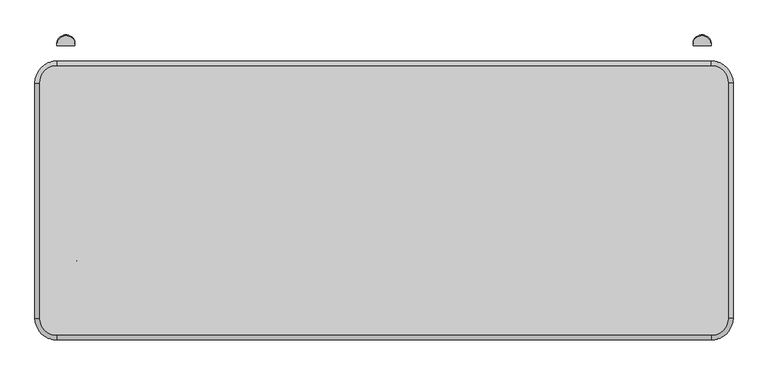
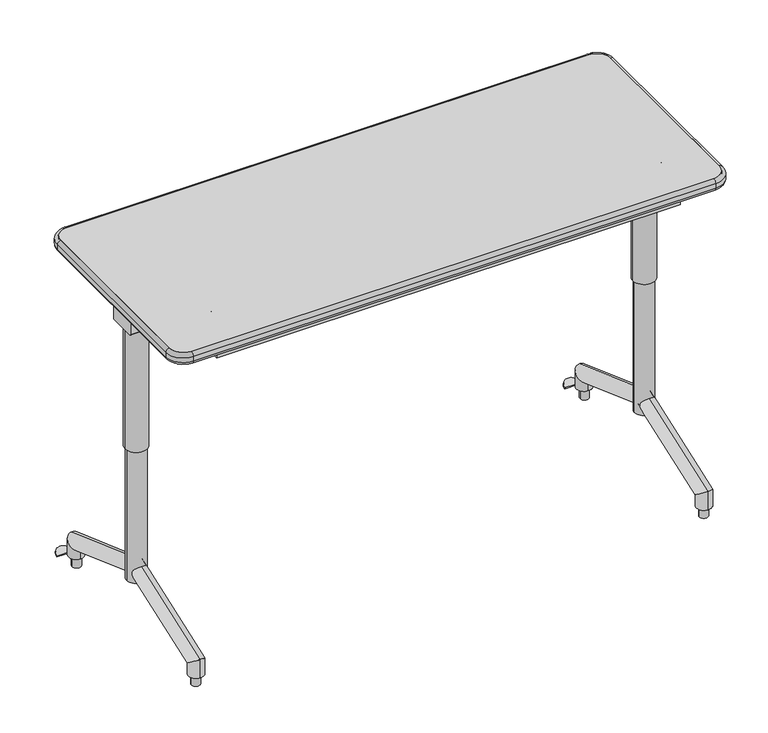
"""IFC4 building model written with IfcOpenShell, lengths in millimetres: furniture geometry, SmithSystem_AM_Table_Education_Elemental_NestAndFold_24D : 24D x 60W."""

from ifc_helpers import new_model, si_unit, point, frame, frame_2d, origin, place, context, project, spatial, polyline, circle_curve, ellipse_curve, trimmed, segment, composite_curve, outline, extrude, source, transform, mapped, element, save
from ifc_brep_helpers import plane_surface, cylinder_surface, revolved_surface, advanced_brep


def furniture_2a3ed800(model_context):
    return source(origin(), model_context, "Body", "SolidModel", [
        advanced_brep(
        [(1334.7134706, -427.2789552, 981.8257265), (1334.7134706, -434.5498344, 978.192725), (1327.0335156, -427.2789552, 981.8257265), (1327.0335156, -434.5498344, 978.192725), (1321.5159237, -439.4855805, 975.7265071), (1313.3879237, -439.4855805, 975.7265071), (1313.3879237, -504.7273959, 943.1274772), (1321.5159237, -504.7273959, 943.1274772), (1327.1310849, -509.7504224, 940.6176484), (1327.1310849, -517.0213016, 936.9846469), (1427.2139747, -517.0213016, 936.9846469), (1427.2139747, -509.7504224, 940.6176484), (1432.8070377, -504.7471638, 943.1175999), (1440.9350377, -504.7471638, 943.1175999), (1440.9350377, -439.5942232, 975.6722222), (1432.8070377, -439.5942232, 975.6722222), (1427.1679959, -434.5498344, 978.192725), (1427.1679959, -427.2789552, 981.8257265), (1419.6094908, -427.2789552, 981.8257265), (1419.6094908, -434.5498344, 978.192725)],
        [
            (0, 1, circle_curve(frame((1334.7134706, -430.9143948, 980.0092257), z_axis=(1.0, 0.0, 0.0), x_axis=(0.0, -0.8945471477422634, -0.44697360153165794)), 4.064)),
            (1, 0, circle_curve(frame((1334.7134706, -430.9143948, 980.0092257), z_axis=(1.0, 0.0, 0.0), x_axis=(0.0, -0.8945471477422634, -0.44697360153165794)), 4.064)),
            (0, 2),
            (2, 3, circle_curve(frame((1327.0335156, -430.9143948, 980.0092257), z_axis=(1.0, 0.0, 0.0), x_axis=(0.0, -0.8945471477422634, -0.44697360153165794)), 4.064)),
            (3, 1),
            (3, 2, circle_curve(frame((1327.0335156, -430.9143948, 980.0092257), z_axis=(1.0, 0.0, 0.0), x_axis=(0.0, -0.8945471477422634, -0.44697360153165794)), 4.064)),
            (4, 3, circle_curve(frame((1327.0335156, -439.4855805, 975.7265071), z_axis=(0.0, 0.4469736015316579, -0.8945471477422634), x_axis=(0.0, 0.8945471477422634, 0.4469736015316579)), 5.517592)),
            (2, 5, circle_curve(frame((1327.0335156, -439.4855805, 975.7265071), z_axis=(0.0, -0.4469736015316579, 0.8945471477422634), x_axis=(0.0, 0.8945471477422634, 0.4469736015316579)), 13.645592)),
            (5, 4, circle_curve(frame((1317.4519237, -439.4855805, 975.7265071), z_axis=(0.0, 0.8945471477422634, 0.44697360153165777), x_axis=(1.0, 0.0, 0.0)), 4.064)),
            (4, 5, circle_curve(frame((1317.4519237, -439.4855805, 975.7265071), z_axis=(0.0, 0.8945471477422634, 0.44697360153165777), x_axis=(1.0, 0.0, 0.0)), 4.064)),
            (5, 6),
            (6, 7, circle_curve(frame((1317.4519237, -504.7273959, 943.1274772), z_axis=(0.0, 0.8945471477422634, 0.44697360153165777), x_axis=(1.0, 0.0, 0.0)), 4.064)),
            (7, 4),
            (7, 6, circle_curve(frame((1317.4519237, -504.7273959, 943.1274772), z_axis=(0.0, 0.8945471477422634, 0.44697360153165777), x_axis=(1.0, 0.0, 0.0)), 4.064)),
            (8, 7, circle_curve(frame((1327.1310849, -504.7273959, 943.1274772), z_axis=(0.0, 0.4469736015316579, -0.8945471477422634), x_axis=(-1.0, 0.0, 0.0)), 5.6151612)),
            (6, 9, circle_curve(frame((1327.1310849, -504.7273959, 943.1274772), z_axis=(0.0, -0.4469736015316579, 0.8945471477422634), x_axis=(-1.0, 0.0, 0.0)), 13.7431612)),
            (9, 8, circle_curve(frame((1327.1310849, -513.385862, 938.8011476), z_axis=(-1.0, 0.0, 0.0), x_axis=(0.0, 0.8945471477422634, 0.44697360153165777)), 4.064)),
            (8, 9, circle_curve(frame((1327.1310849, -513.385862, 938.8011476), z_axis=(-1.0, 0.0, 0.0), x_axis=(0.0, 0.8945471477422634, 0.44697360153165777)), 4.064)),
            (9, 10),
            (10, 11, circle_curve(frame((1427.2139747, -513.385862, 938.8011476), z_axis=(-1.0, 0.0, 0.0), x_axis=(0.0, 0.8945471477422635, 0.44697360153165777)), 4.064)),
            (11, 8),
            (11, 10, circle_curve(frame((1427.2139747, -513.385862, 938.8011476), z_axis=(-1.0, 0.0, 0.0), x_axis=(0.0, 0.8945471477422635, 0.44697360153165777)), 4.064)),
            (12, 11, circle_curve(frame((1427.2139747, -504.7471638, 943.1175999), z_axis=(0.0, 0.4469736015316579, -0.8945471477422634), x_axis=(0.0, -0.8945471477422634, -0.4469736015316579)), 5.593063)),
            (10, 13, circle_curve(frame((1427.2139747, -504.7471638, 943.1175999), z_axis=(0.0, -0.4469736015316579, 0.8945471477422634), x_axis=(0.0, -0.8945471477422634, -0.4469736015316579)), 13.721063)),
            (13, 12, circle_curve(frame((1436.8710377, -504.7471638, 943.1175999), z_axis=(0.0, -0.8945471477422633, -0.44697360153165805), x_axis=(-1.0, 0.0, 0.0)), 4.064)),
            (12, 13, circle_curve(frame((1436.8710377, -504.7471638, 943.1175999), z_axis=(0.0, -0.8945471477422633, -0.44697360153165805), x_axis=(-1.0, 0.0, 0.0)), 4.064)),
            (13, 14),
            (14, 15, circle_curve(frame((1436.8710377, -439.5942232, 975.6722222), z_axis=(0.0, -0.894547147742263, -0.4469736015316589), x_axis=(-1.0, 0.0, 0.0)), 4.064)),
            (15, 12),
            (15, 14, circle_curve(frame((1436.8710377, -439.5942232, 975.6722222), z_axis=(0.0, -0.894547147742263, -0.4469736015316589), x_axis=(-1.0, 0.0, 0.0)), 4.064)),
            (16, 15, circle_curve(frame((1427.1679959, -439.5942232, 975.6722222), z_axis=(0.0, 0.4469736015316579, -0.8945471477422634), x_axis=(1.0, 0.0, 0.0)), 5.6390418)),
            (14, 17, circle_curve(frame((1427.1679959, -439.5942232, 975.6722222), z_axis=(0.0, -0.4469736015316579, 0.8945471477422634), x_axis=(1.0, 0.0, 0.0)), 13.7670418)),
            (17, 16, circle_curve(frame((1427.1679959, -430.9143948, 980.0092257), z_axis=(1.0, 0.0, 0.0), x_axis=(0.0, -0.8945471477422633, -0.446973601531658)), 4.064)),
            (16, 17, circle_curve(frame((1427.1679959, -430.9143948, 980.0092257), z_axis=(1.0, 0.0, 0.0), x_axis=(0.0, -0.8945471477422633, -0.446973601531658)), 4.064)),
            (18, 19, circle_curve(frame((1419.6094908, -430.9143948, 980.0092257), z_axis=(-1.0, 0.0, 0.0), x_axis=(0.0, -0.8945471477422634, -0.44697360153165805)), 4.064)),
            (19, 18, circle_curve(frame((1419.6094908, -430.9143948, 980.0092257), z_axis=(-1.0, 0.0, 0.0), x_axis=(0.0, -0.8945471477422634, -0.44697360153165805)), 4.064)),
            (17, 18),
            (19, 16),
        ],
        [
            plane_surface(frame((1334.7134706, -309.47432, 727.857014), z_axis=(1.0, 0.0, 0.0), x_axis=(0.0, -0.44697360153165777, 0.8945471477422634))),
            cylinder_surface(frame((1334.7134706, -430.9143948, 980.0092257), z_axis=(1.0, 0.0, 0.0), x_axis=(0.0, -0.8945471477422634, -0.44697360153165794)), 4.064),
            revolved_surface(trimmed(ellipse_curve(frame((1327.0335156, -430.9143948, 980.0092257), z_axis=(1.0, 0.0, 0.0), x_axis=(0.0, -0.8945471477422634, -0.44697360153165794)), 4.064, 4.064), [point((1327.0335156, -427.2789552, 981.8257265))], [point((1327.0335156, -434.5498344, 978.192725))], True, "CARTESIAN"), (1327.0335156, -314.4033484, 725.3941527), (0.0, -0.4469736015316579, 0.8945471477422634)),
            revolved_surface(trimmed(ellipse_curve(frame((1327.0335156, -430.9143948, 980.0092257), z_axis=(1.0, 0.0, 0.0), x_axis=(0.0, -0.8945471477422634, -0.44697360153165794)), 4.064, 4.064), [point((1327.0335156, -434.5498344, 978.192725))], [point((1327.0335156, -427.2789552, 981.8257265))], True, "CARTESIAN"), (1327.0335156, -314.4033484, 725.3941527), (0.0, -0.4469736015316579, 0.8945471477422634)),
            cylinder_surface(frame((1317.4519237, -439.4855805, 975.7265071), z_axis=(0.0, 0.8945471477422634, 0.44697360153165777), x_axis=(1.0, 0.0, 0.0)), 4.064),
            revolved_surface(trimmed(ellipse_curve(frame((1317.4519237, -504.7273959, 943.1274772), z_axis=(0.0, 0.8945471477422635, 0.4469736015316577), x_axis=(1.0, 0.0, 0.0)), 4.064, 4.064), [point((1313.3879237, -504.7273959, 943.1274772))], [point((1321.5159237, -504.7273959, 943.1274772))], True, "CARTESIAN"), (1327.1310849, -379.6451638, 692.7951229), (0.0, -0.4469736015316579, 0.8945471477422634)),
            revolved_surface(trimmed(ellipse_curve(frame((1317.4519237, -504.7273959, 943.1274772), z_axis=(0.0, 0.8945471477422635, 0.4469736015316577), x_axis=(1.0, 0.0, 0.0)), 4.064, 4.064), [point((1321.5159237, -504.7273959, 943.1274772))], [point((1313.3879237, -504.7273959, 943.1274772))], True, "CARTESIAN"), (1327.1310849, -379.6451638, 692.7951229), (0.0, -0.4469736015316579, 0.8945471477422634)),
            cylinder_surface(frame((1327.1310849, -513.385862, 938.8011476), z_axis=(-1.0, 0.0, 0.0), x_axis=(0.0, 0.8945471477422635, 0.44697360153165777)), 4.064),
            revolved_surface(trimmed(ellipse_curve(frame((1427.2139747, -513.385862, 938.8011476), z_axis=(-1.0, 0.0, 0.0), x_axis=(0.0, 0.8945471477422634, 0.4469736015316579)), 4.064, 4.064), [point((1427.2139747, -517.0213016, 936.9846469))], [point((1427.2139747, -509.7504224, 940.6176484))], True, "CARTESIAN"), (1427.2139747, -379.6649317, 692.7852455), (0.0, -0.4469736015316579, 0.8945471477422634)),
            revolved_surface(trimmed(ellipse_curve(frame((1427.2139747, -513.385862, 938.8011476), z_axis=(-1.0, 0.0, 0.0), x_axis=(0.0, 0.8945471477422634, 0.4469736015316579)), 4.064, 4.064), [point((1427.2139747, -509.7504224, 940.6176484))], [point((1427.2139747, -517.0213016, 936.9846469))], True, "CARTESIAN"), (1427.2139747, -379.6649317, 692.7852455), (0.0, -0.4469736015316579, 0.8945471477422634)),
            cylinder_surface(frame((1436.8710377, -504.7471638, 943.1175999), z_axis=(0.0, -0.894547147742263, -0.4469736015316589), x_axis=(-1.0, 0.0, 0.0)), 4.064),
            revolved_surface(trimmed(ellipse_curve(frame((1436.8710377, -439.5942232, 975.6722222), z_axis=(0.0, -0.8945471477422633, -0.4469736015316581), x_axis=(-1.0, 0.0, 0.0)), 4.064, 4.064), [point((1440.9350377, -439.5942232, 975.6722222))], [point((1432.8070377, -439.5942232, 975.6722222))], True, "CARTESIAN"), (1427.1679959, -314.511991, 725.3398679), (0.0, -0.4469736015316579, 0.8945471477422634)),
            revolved_surface(trimmed(ellipse_curve(frame((1436.8710377, -439.5942232, 975.6722222), z_axis=(0.0, -0.8945471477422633, -0.4469736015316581), x_axis=(-1.0, 0.0, 0.0)), 4.064, 4.064), [point((1432.8070377, -439.5942232, 975.6722222))], [point((1440.9350377, -439.5942232, 975.6722222))], True, "CARTESIAN"), (1427.1679959, -314.511991, 725.3398679), (0.0, -0.4469736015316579, 0.8945471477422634)),
            plane_surface(frame((1419.6094908, -309.47432, 727.857014), z_axis=(-1.0, 0.0, 0.0), x_axis=(0.0, -0.4469736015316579, 0.8945471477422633))),
            cylinder_surface(frame((1427.1679959, -430.9143948, 980.0092257), z_axis=(1.0, 0.0, 0.0), x_axis=(0.0, -0.8945471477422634, -0.44697360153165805)), 4.064),
        ],
        [
            (0, [[1, 2]]),
            (1, [[-1, 3, 4, 5]]),
            (1, [[-2, -5, 6, -3]]),
            (2, [[7, -4, 8, 9]]),
            (3, [[-8, -6, -7, 10]]),
            (4, [[-9, 11, 12, 13]]),
            (4, [[-10, -13, 14, -11]]),
            (5, [[15, -12, 16, 17]]),
            (6, [[-16, -14, -15, 18]]),
            (7, [[-17, 19, 20, 21]]),
            (7, [[-18, -21, 22, -19]]),
            (8, [[23, -20, 24, 25]]),
            (9, [[-24, -22, -23, 26]]),
            (10, [[-25, 27, 28, 29]]),
            (10, [[-26, -29, 30, -27]]),
            (11, [[31, -28, 32, 33]]),
            (12, [[-32, -30, -31, 34]]),
            (13, [[35, 36]]),
            (14, [[-33, 37, -36, 38]]),
            (14, [[-34, -38, -35, -37]]),
        ],
    ),
        advanced_brep(
        [(189.2865294, -434.5370466, 978.1897867), (189.2865294, -427.2661674, 981.8227881), (196.9664844, -434.5370466, 978.1897867), (196.9664844, -427.2661674, 981.8227881), (210.6222023, -439.4818509, 975.7190427), (202.4942023, -439.4818509, 975.7190427), (202.4942023, -504.7236662, 943.1200128), (210.6222023, -504.7236662, 943.1200128), (196.8689151, -517.02663, 936.9726565), (196.8689151, -509.7557508, 940.605658), (96.7860253, -509.7557508, 940.605658), (96.7860253, -517.02663, 936.9726565), (83.0548363, -504.7434342, 943.1101355), (91.1828363, -504.7434342, 943.1101355), (91.1828363, -439.5904935, 975.6647578), (83.0548363, -439.5904935, 975.6647578), (96.8320041, -427.2661674, 981.8227881), (96.8320041, -434.5370466, 978.1897867), (104.3905092, -434.5370466, 978.1897867), (104.3905092, -427.2661674, 981.8227881)],
        [
            (0, 1, circle_curve(frame((189.2865294, -430.901607, 980.0062874), z_axis=(-1.0, 0.0, 0.0), x_axis=(0.0, 0.8945471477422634, 0.4469736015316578)), 4.064)),
            (1, 0, circle_curve(frame((189.2865294, -430.901607, 980.0062874), z_axis=(-1.0, 0.0, 0.0), x_axis=(0.0, 0.8945471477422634, 0.4469736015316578)), 4.064)),
            (0, 2),
            (2, 3, circle_curve(frame((196.9664844, -430.901607, 980.0062874), z_axis=(-1.0, 0.0, 0.0), x_axis=(0.0, 0.8945471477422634, 0.4469736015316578)), 4.064)),
            (3, 1),
            (3, 2, circle_curve(frame((196.9664844, -430.901607, 980.0062874), z_axis=(-1.0, 0.0, 0.0), x_axis=(0.0, 0.8945471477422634, 0.4469736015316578)), 4.064)),
            (4, 3, circle_curve(frame((196.9664844, -439.4818509, 975.7190427), z_axis=(0.0, -0.4469736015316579, 0.8945471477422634), x_axis=(0.0, 0.8945471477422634, 0.4469736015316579)), 13.6557179)),
            (2, 5, circle_curve(frame((196.9664844, -439.4818509, 975.7190427), z_axis=(0.0, 0.4469736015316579, -0.8945471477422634), x_axis=(0.0, 0.8945471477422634, 0.4469736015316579)), 5.5277179)),
            (5, 4, circle_curve(frame((206.5582023, -439.4818509, 975.7190427), z_axis=(0.0, 0.8945471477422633, 0.446973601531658), x_axis=(1.0, 0.0, 0.0)), 4.064)),
            (4, 5, circle_curve(frame((206.5582023, -439.4818509, 975.7190427), z_axis=(0.0, 0.8945471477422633, 0.446973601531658), x_axis=(1.0, 0.0, 0.0)), 4.064)),
            (5, 6),
            (6, 7, circle_curve(frame((206.5582023, -504.7236662, 943.1200128), z_axis=(0.0, 0.8945471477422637, 0.4469736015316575), x_axis=(1.0, 0.0, 0.0)), 4.064)),
            (7, 4),
            (7, 6, circle_curve(frame((206.5582023, -504.7236662, 943.1200128), z_axis=(0.0, 0.8945471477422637, 0.4469736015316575), x_axis=(1.0, 0.0, 0.0)), 4.064)),
            (8, 7, circle_curve(frame((196.8689151, -504.7236662, 943.1200128), z_axis=(0.0, -0.4469736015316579, 0.8945471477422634), x_axis=(1.0, 0.0, 0.0)), 13.7532872)),
            (6, 9, circle_curve(frame((196.8689151, -504.7236662, 943.1200128), z_axis=(0.0, 0.4469736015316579, -0.8945471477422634), x_axis=(1.0, 0.0, 0.0)), 5.6252872)),
            (9, 8, circle_curve(frame((196.8689151, -513.3911904, 938.7891573), z_axis=(1.0, 0.0, 0.0), x_axis=(0.0, -0.8945471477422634, -0.44697360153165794)), 4.064)),
            (8, 9, circle_curve(frame((196.8689151, -513.3911904, 938.7891573), z_axis=(1.0, 0.0, 0.0), x_axis=(0.0, -0.8945471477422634, -0.44697360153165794)), 4.064)),
            (9, 10),
            (10, 11, circle_curve(frame((96.7860253, -513.3911904, 938.7891573), z_axis=(1.0, 0.0, 0.0), x_axis=(0.0, -0.8945471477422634, -0.446973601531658)), 4.064)),
            (11, 8),
            (11, 10, circle_curve(frame((96.7860253, -513.3911904, 938.7891573), z_axis=(1.0, 0.0, 0.0), x_axis=(0.0, -0.8945471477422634, -0.446973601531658)), 4.064)),
            (12, 11, circle_curve(frame((96.7860253, -504.7434342, 943.1101355), z_axis=(0.0, -0.4469736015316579, 0.8945471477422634), x_axis=(0.0, -0.8945471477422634, -0.4469736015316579)), 13.7311889)),
            (10, 13, circle_curve(frame((96.7860253, -504.7434342, 943.1101355), z_axis=(0.0, 0.4469736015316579, -0.8945471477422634), x_axis=(0.0, -0.8945471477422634, -0.4469736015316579)), 5.6031889)),
            (13, 12, circle_curve(frame((87.1188363, -504.7434342, 943.1101355), z_axis=(0.0, -0.8945471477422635, -0.44697360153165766), x_axis=(-1.0, 0.0, 0.0)), 4.064)),
            (12, 13, circle_curve(frame((87.1188363, -504.7434342, 943.1101355), z_axis=(0.0, -0.8945471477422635, -0.44697360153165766), x_axis=(-1.0, 0.0, 0.0)), 4.064)),
            (13, 14),
            (14, 15, circle_curve(frame((87.1188363, -439.5904935, 975.6647578), z_axis=(0.0, -0.8945471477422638, -0.446973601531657), x_axis=(-1.0, 0.0, 0.0)), 4.064)),
            (15, 12),
            (15, 14, circle_curve(frame((87.1188363, -439.5904935, 975.6647578), z_axis=(0.0, -0.8945471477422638, -0.446973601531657), x_axis=(-1.0, 0.0, 0.0)), 4.064)),
            (16, 15, circle_curve(frame((96.8320041, -439.5904935, 975.6647578), z_axis=(0.0, -0.4469736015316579, 0.8945471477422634), x_axis=(-1.0, 0.0, 0.0)), 13.7771678)),
            (14, 17, circle_curve(frame((96.8320041, -439.5904935, 975.6647578), z_axis=(0.0, 0.4469736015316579, -0.8945471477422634), x_axis=(-1.0, 0.0, 0.0)), 5.6491678)),
            (17, 16, circle_curve(frame((96.8320041, -430.901607, 980.0062874), z_axis=(-1.0, 0.0, 0.0), x_axis=(0.0, 0.8945471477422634, 0.44697360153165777)), 4.064)),
            (16, 17, circle_curve(frame((96.8320041, -430.901607, 980.0062874), z_axis=(-1.0, 0.0, 0.0), x_axis=(0.0, 0.8945471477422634, 0.44697360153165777)), 4.064)),
            (18, 19, circle_curve(frame((104.3905092, -430.901607, 980.0062874), z_axis=(1.0, 0.0, 0.0), x_axis=(0.0, 0.8945471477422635, 0.44697360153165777)), 4.064)),
            (19, 18, circle_curve(frame((104.3905092, -430.901607, 980.0062874), z_axis=(1.0, 0.0, 0.0), x_axis=(0.0, 0.8945471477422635, 0.44697360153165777)), 4.064)),
            (17, 18),
            (19, 16),
        ],
        [
            plane_surface(frame((189.2865294, -309.47432, 727.857014), z_axis=(-1.0, 0.0, 0.0), x_axis=(0.0, -0.4469736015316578, 0.8945471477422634))),
            cylinder_surface(frame((189.2865294, -430.901607, 980.0062874), z_axis=(-0.9999999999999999, 0.0, 0.0), x_axis=(0.0, 0.8945471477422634, 0.4469736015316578)), 4.064),
            revolved_surface(trimmed(ellipse_curve(frame((196.9664844, -430.901607, 980.0062874), z_axis=(-1.0, 0.0, 0.0), x_axis=(0.0, 0.8945471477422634, 0.4469736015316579)), 4.064, 4.064), [point((196.9664844, -434.5370466, 978.1897867))], [point((196.9664844, -427.2661674, 981.8227881))], True, "CARTESIAN"), (196.9664844, -314.4033484, 725.3941527), (0.0, 0.4469736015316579, -0.8945471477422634)),
            revolved_surface(trimmed(ellipse_curve(frame((196.9664844, -430.901607, 980.0062874), z_axis=(-1.0, 0.0, 0.0), x_axis=(0.0, 0.8945471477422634, 0.4469736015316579)), 4.064, 4.064), [point((196.9664844, -427.2661674, 981.8227881))], [point((196.9664844, -434.5370466, 978.1897867))], True, "CARTESIAN"), (196.9664844, -314.4033484, 725.3941527), (0.0, 0.4469736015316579, -0.8945471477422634)),
            cylinder_surface(frame((206.5582023, -439.4818509, 975.7190427), z_axis=(0.0, 0.8945471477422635, 0.4469736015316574), x_axis=(1.0, 0.0, 0.0)), 4.064),
            revolved_surface(trimmed(ellipse_curve(frame((206.5582023, -504.7236662, 943.1200128), z_axis=(0.0, 0.8945471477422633, 0.4469736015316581), x_axis=(1.0, 0.0, 0.0)), 4.064, 4.064), [point((202.4942023, -504.7236662, 943.1200128))], [point((210.6222023, -504.7236662, 943.1200128))], True, "CARTESIAN"), (196.8689151, -379.6451638, 692.7951229), (0.0, 0.4469736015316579, -0.8945471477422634)),
            revolved_surface(trimmed(ellipse_curve(frame((206.5582023, -504.7236662, 943.1200128), z_axis=(0.0, 0.8945471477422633, 0.4469736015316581), x_axis=(1.0, 0.0, 0.0)), 4.064, 4.064), [point((210.6222023, -504.7236662, 943.1200128))], [point((202.4942023, -504.7236662, 943.1200128))], True, "CARTESIAN"), (196.8689151, -379.6451638, 692.7951229), (0.0, 0.4469736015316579, -0.8945471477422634)),
            cylinder_surface(frame((196.8689151, -513.3911904, 938.7891573), z_axis=(1.0, 0.0, 0.0), x_axis=(0.0, -0.8945471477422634, -0.446973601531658)), 4.064),
            revolved_surface(trimmed(ellipse_curve(frame((96.7860253, -513.3911904, 938.7891573), z_axis=(1.0, 0.0, 0.0), x_axis=(0.0, -0.8945471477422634, -0.446973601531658)), 4.064, 4.064), [point((96.7860253, -509.7557508, 940.605658))], [point((96.7860253, -517.02663, 936.9726565))], True, "CARTESIAN"), (96.7860253, -379.6649317, 692.7852455), (0.0, 0.4469736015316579, -0.8945471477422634)),
            revolved_surface(trimmed(ellipse_curve(frame((96.7860253, -513.3911904, 938.7891573), z_axis=(1.0, 0.0, 0.0), x_axis=(0.0, -0.8945471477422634, -0.446973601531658)), 4.064, 4.064), [point((96.7860253, -517.02663, 936.9726565))], [point((96.7860253, -509.7557508, 940.605658))], True, "CARTESIAN"), (96.7860253, -379.6649317, 692.7852455), (0.0, 0.4469736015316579, -0.8945471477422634)),
            cylinder_surface(frame((87.1188363, -504.7434342, 943.1101355), z_axis=(0.0, -0.8945471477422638, -0.446973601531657), x_axis=(-1.0, 0.0, 0.0)), 4.064),
            revolved_surface(trimmed(ellipse_curve(frame((87.1188363, -439.5904935, 975.6647578), z_axis=(0.0, -0.8945471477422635, -0.4469736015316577), x_axis=(-1.0, 0.0, 0.0)), 4.064, 4.064), [point((91.1828363, -439.5904935, 975.6647578))], [point((83.0548363, -439.5904935, 975.6647578))], True, "CARTESIAN"), (96.8320041, -314.511991, 725.3398679), (0.0, 0.4469736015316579, -0.8945471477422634)),
            revolved_surface(trimmed(ellipse_curve(frame((87.1188363, -439.5904935, 975.6647578), z_axis=(0.0, -0.8945471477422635, -0.4469736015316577), x_axis=(-1.0, 0.0, 0.0)), 4.064, 4.064), [point((83.0548363, -439.5904935, 975.6647578))], [point((91.1828363, -439.5904935, 975.6647578))], True, "CARTESIAN"), (96.8320041, -314.511991, 725.3398679), (0.0, 0.4469736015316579, -0.8945471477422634)),
            plane_surface(frame((104.3905092, -309.47432, 727.857014), z_axis=(1.0, 0.0, 0.0), x_axis=(0.0, -0.4469736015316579, 0.8945471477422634))),
            cylinder_surface(frame((96.8320041, -430.901607, 980.0062874), z_axis=(-1.0000000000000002, 0.0, 0.0), x_axis=(0.0, 0.8945471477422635, 0.44697360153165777)), 4.064),
        ],
        [
            (0, [[1, 2]]),
            (1, [[-1, 3, 4, 5]]),
            (1, [[-2, -5, 6, -3]]),
            (2, [[7, -4, 8, 9]]),
            (3, [[-8, -6, -7, 10]]),
            (4, [[-9, 11, 12, 13]]),
            (4, [[-10, -13, 14, -11]]),
            (5, [[15, -12, 16, 17]]),
            (6, [[-16, -14, -15, 18]]),
            (7, [[-17, 19, 20, 21]]),
            (7, [[-18, -21, 22, -19]]),
            (8, [[23, -20, 24, 25]]),
            (9, [[-24, -22, -23, 26]]),
            (10, [[-25, 27, 28, 29]]),
            (10, [[-26, -29, 30, -27]]),
            (11, [[31, -28, 32, 33]]),
            (12, [[-32, -30, -31, 34]]),
            (13, [[35, 36]]),
            (14, [[-33, 37, -36, 38]]),
            (14, [[-34, -38, -35, -37]]),
        ],
    ),
        extrude(outline(polyline([(161.8904019, -551.0151675), (133.8581916, -551.0151675), (133.8581916, -327.1633652), (161.8904019, -327.1633652), (161.8904019, -551.0151675)])), frame((0.0, 0.0, 974.280274), z_axis=(0.0, 0.0, 1.0), x_axis=(1.0, 0.0, 0.0)), (0.0, 0.0, 1.0), 3.0744342),
        extrude(outline(polyline([(1390.1418084, -551.0151675), (1362.1095981, -551.0151675), (1362.1095981, -327.1633652), (1390.1418084, -327.1633652), (1390.1418084, -551.0151675)])), frame((0.0, 0.0, 974.280274), z_axis=(0.0, 0.0, 1.0), x_axis=(1.0, 0.0, 0.0)), (0.0, 0.0, 1.0), 3.0744342),
        extrude(outline(polyline([(1395.6745397, -551.0143137), (1395.6745397, -581.0147172), (128.3254603, -581.0147172), (128.3254603, -551.0143137), (1395.6745397, -551.0143137)])), frame((0.0, 0.0, 956.9875008), z_axis=(0.0, 0.0, 1.0), x_axis=(1.0, 0.0, 0.0)), (0.0, 0.0, 1.0), 20.3672075),
        extrude(outline(polyline([(-282.4370254, 984.2285912), (-260.3053067, 984.2285912), (-260.3053067, 981.8836076), (-279.3992263, 981.8836076), (-279.3992263, 953.4317459), (-330.2007737, 953.4317459), (-330.2007737, 981.8836076), (-349.2946933, 981.8836076), (-349.2946933, 984.2285912), (-327.1629746, 984.2285912), (-327.1629746, 955.4207676), (-282.4370254, 955.4207676), (-282.4370254, 984.2285912)])), frame((211.3171616, 0.0, 0.0), z_axis=(1.0, 0.0, 0.0), x_axis=(0.0, 1.0, 0.0)), (0.0, 0.0, 1.0), 1101.3656767),
        extrude(outline(polyline([(953.4317459, 102.364461), (953.4317459, 191.3646412), (984.2285912, 191.3646412), (984.2285912, 188.3699958), (956.6757476, 188.3699958), (956.6757476, 105.3591064), (984.2285912, 105.3591064), (984.2285912, 102.364461), (953.4317459, 102.364461)])), frame((0.0, -479.7995835, 0.0), z_axis=(0.0, 1.0, 0.0), x_axis=(0.0, 0.0, 1.0)), (0.0, 0.0, 1.0), 349.999167),
        extrude(outline(polyline([(953.4317459, 1421.635539), (984.2285912, 1421.635539), (984.2285912, 1418.6408936), (956.6757476, 1418.6408936), (956.6757476, 1335.6300042), (984.2285912, 1335.6300042), (984.2285912, 1332.6353588), (953.4317459, 1332.6353588), (953.4317459, 1421.635539)])), frame((0.0, -479.7995835, 0.0), z_axis=(0.0, 1.0, 0.0), x_axis=(0.0, 0.0, 1.0)), (0.0, 0.0, 1.0), 349.999167),
        extrude(outline(composite_curve([segment(polyline([(-341.7081299, 953.4317459), (-267.7421288, 953.4317459)]), True, "CONTINUOUS"), segment(trimmed(circle_curve(frame_2d((-267.7421288, 950.268135)), 3.1636109), [point((-267.7421288, 953.4317459))], [point((-264.5785179, 950.268135))], False, "CARTESIAN"), True, "CONTINUOUS"), segment(polyline([(-264.5785179, 950.268135), (-264.5785179, 916.5890828)]), True, "CONTINUOUS"), segment(trimmed(circle_curve(frame_2d((-267.720262, 916.5890828)), 3.1417441), [point((-264.5785179, 916.5890828))], [point((-267.720262, 913.4473388))], False, "CARTESIAN"), True, "CONTINUOUS"), segment(polyline([(-267.720262, 913.4473388), (-341.8879819, 913.4473388)]), True, "CONTINUOUS"), segment(trimmed(circle_curve(frame_2d((-341.8879819, 916.3885905)), 2.9412518), [point((-341.8879819, 913.4473388))], [point((-344.8292336, 916.3885905))], False, "CARTESIAN"), True, "CONTINUOUS"), segment(polyline([(-344.8292336, 916.3885905), (-344.8292336, 950.3106422)]), True, "CONTINUOUS"), segment(trimmed(circle_curve(frame_2d((-341.7081299, 950.3106422)), 3.1211038), [point((-344.8292336, 950.3106422))], [point((-341.7081299, 953.4317459))], False, "CARTESIAN"), True, "CONTINUOUS")], self_intersect=False)), frame((29.2900918, 0.0, 0.0), z_axis=(1.0, 0.0, 0.0), x_axis=(0.0, 1.0, 0.0)), (0.0, 0.0, 1.0), 1465.4198163),
        advanced_brep(
        [(0.0, -47.752, 1006.475029), (47.752, 0.0, 1006.475029), (47.752, 0.0, 993.7749708), (0.0, -47.752, 993.7749708), (9.652, -47.752, 1016.0), (47.752, -9.652, 1016.0), (9.652, -47.752, 984.2285912), (47.752, -9.652, 984.2285912), (0.0, -561.848, 993.7749708), (0.0, -561.848, 1006.475029), (9.652, -561.848, 1016.0), (9.652, -561.848, 984.2285912), (47.752, -609.6, 1006.475029), (47.752, -609.6, 993.7749708), (47.752, -599.948, 1016.0), (47.752, -599.948, 984.2285912), (1476.248, -609.6, 993.7749708), (1476.248, -609.6, 1006.475029), (1476.248, -599.948, 1016.0), (1476.248, -599.948, 984.2285912), (1524.0, -561.848, 1006.475029), (1524.0, -561.848, 993.7749708), (1514.348, -561.848, 1016.0), (1514.348, -561.848, 984.2285912), (1524.0, -47.752, 993.7749708), (1524.0, -47.752, 1006.475029), (1514.348, -47.752, 1016.0), (1514.348, -47.752, 984.2285912), (1476.248, 0.0, 1006.475029), (1476.248, 0.0, 993.7749708), (1476.248, -9.652, 1016.0), (1476.248, -9.652, 984.2285912)],
        [
            (0, 1, circle_curve(frame((47.752, -47.752, 1006.475029), z_axis=(0.0, 0.0, -1.0), x_axis=(0.0, 1.0, 0.0)), 47.752)),
            (1, 2),
            (2, 3, circle_curve(frame((47.752, -47.752, 993.7749708), z_axis=(0.0, 0.0, 1.0), x_axis=(0.0, 1.0, 0.0)), 47.752)),
            (3, 0),
            (4, 5, circle_curve(frame((47.752, -47.752, 1016.0), z_axis=(0.0, 0.0, -1.0), x_axis=(0.0, 1.0, 0.0)), 38.1)),
            (5, 1, circle_curve(frame((47.752, -9.5258069, 1006.475029), z_axis=(-1.0, 0.0, 0.0), x_axis=(0.0, -1.0, 0.0)), 9.5258069)),
            (0, 4, circle_curve(frame((9.5258069, -47.752, 1006.475029), z_axis=(0.0, 1.0, 0.0), x_axis=(1.0, 0.0, 0.0)), 9.5258069)),
            (6, 7, circle_curve(frame((47.752, -47.752, 984.2285912), z_axis=(0.0, 0.0, -1.0), x_axis=(0.0, 1.0, 0.0)), 38.1)),
            (7, 5),
            (4, 6),
            (2, 7, circle_curve(frame((47.752, -9.5469575, 993.7749708), z_axis=(-1.0, 0.0, 0.0), x_axis=(0.0, -1.0, 0.0)), 9.5469575)),
            (6, 3, circle_curve(frame((9.5469575, -47.752, 993.7749708), z_axis=(0.0, 1.0, 0.0), x_axis=(1.0, 0.0, 0.0)), 9.5469575)),
            (3, 8),
            (8, 9),
            (9, 0),
            (9, 10, circle_curve(frame((9.5258069, -561.848, 1006.475029), z_axis=(0.0, 1.0, 0.0), x_axis=(1.0, 0.0, 0.0)), 9.5258069)),
            (10, 4),
            (10, 11),
            (11, 6),
            (11, 8, circle_curve(frame((9.5469575, -561.848, 993.7749708), z_axis=(0.0, 1.0, 0.0), x_axis=(1.0, 0.0, 0.0)), 9.5469575)),
            (12, 9, circle_curve(frame((47.752, -561.848, 1006.475029), z_axis=(0.0, 0.0, -1.0), x_axis=(-1.0, 0.0, 0.0)), 47.752)),
            (8, 13, circle_curve(frame((47.752, -561.848, 993.7749708), z_axis=(0.0, 0.0, 1.0), x_axis=(-1.0, 0.0, 0.0)), 47.752)),
            (13, 12),
            (14, 10, circle_curve(frame((47.752, -561.848, 1016.0), z_axis=(0.0, 0.0, -1.0), x_axis=(-1.0, 0.0, 0.0)), 38.1)),
            (12, 14, circle_curve(frame((47.752, -600.0741931, 1006.475029), z_axis=(-1.0, 0.0, 0.0), x_axis=(0.0, 1.0, 0.0)), 9.5258069)),
            (15, 11, circle_curve(frame((47.752, -561.848, 984.2285912), z_axis=(0.0, 0.0, -1.0), x_axis=(-1.0, 0.0, 0.0)), 38.1)),
            (14, 15),
            (15, 13, circle_curve(frame((47.752, -600.0530425, 993.7749708), z_axis=(-1.0, 0.0, 0.0), x_axis=(0.0, 1.0, 0.0)), 9.5469575)),
            (13, 16),
            (16, 17),
            (17, 12),
            (17, 18, circle_curve(frame((1476.248, -600.0741931, 1006.475029), z_axis=(-1.0, 0.0, 0.0), x_axis=(0.0, 1.0, 0.0)), 9.5258069)),
            (18, 14),
            (18, 19),
            (19, 15),
            (19, 16, circle_curve(frame((1476.248, -600.0530425, 993.7749708), z_axis=(-1.0, 0.0, 0.0), x_axis=(0.0, 1.0, 0.0)), 9.5469575)),
            (20, 17, circle_curve(frame((1476.248, -561.848, 1006.475029), z_axis=(0.0, 0.0, -1.0), x_axis=(0.0, -1.0, 0.0)), 47.752)),
            (16, 21, circle_curve(frame((1476.248, -561.848, 993.7749708), z_axis=(0.0, 0.0, 1.0), x_axis=(0.0, -1.0, 0.0)), 47.752)),
            (21, 20),
            (22, 18, circle_curve(frame((1476.248, -561.848, 1016.0), z_axis=(0.0, 0.0, -1.0), x_axis=(0.0, -1.0, 0.0)), 38.1)),
            (20, 22, circle_curve(frame((1514.4741931, -561.848, 1006.475029), z_axis=(0.0, -1.0, 0.0), x_axis=(-1.0, 0.0, 0.0)), 9.5258069)),
            (23, 19, circle_curve(frame((1476.248, -561.848, 984.2285912), z_axis=(0.0, 0.0, -1.0), x_axis=(0.0, -1.0, 0.0)), 38.1)),
            (22, 23),
            (23, 21, circle_curve(frame((1514.4530425, -561.848, 993.7749708), z_axis=(0.0, -1.0, 0.0), x_axis=(-1.0, 0.0, 0.0)), 9.5469575)),
            (21, 24),
            (24, 25),
            (25, 20),
            (25, 26, circle_curve(frame((1514.4741931, -47.752, 1006.475029), z_axis=(0.0, -1.0, 0.0), x_axis=(-1.0, 0.0, 0.0)), 9.5258069)),
            (26, 22),
            (26, 27),
            (27, 23),
            (27, 24, circle_curve(frame((1514.4530425, -47.752, 993.7749708), z_axis=(0.0, -1.0, 0.0), x_axis=(-1.0, 0.0, 0.0)), 9.5469575)),
            (28, 25, circle_curve(frame((1476.248, -47.752, 1006.475029), z_axis=(0.0, 0.0, -1.0), x_axis=(1.0, 0.0, 0.0)), 47.752)),
            (24, 29, circle_curve(frame((1476.248, -47.752, 993.7749708), z_axis=(0.0, 0.0, 1.0), x_axis=(1.0, 0.0, 0.0)), 47.752)),
            (29, 28),
            (30, 26, circle_curve(frame((1476.248, -47.752, 1016.0), z_axis=(0.0, 0.0, -1.0), x_axis=(1.0, 0.0, 0.0)), 38.1)),
            (28, 30, circle_curve(frame((1476.248, -9.5258069, 1006.475029), z_axis=(1.0, 0.0, 0.0), x_axis=(0.0, -1.0, 0.0)), 9.5258069)),
            (31, 27, circle_curve(frame((1476.248, -47.752, 984.2285912), z_axis=(0.0, 0.0, -1.0), x_axis=(1.0, 0.0, 0.0)), 38.1)),
            (30, 31),
            (31, 29, circle_curve(frame((1476.248, -9.5469575, 993.7749708), z_axis=(1.0, 0.0, 0.0), x_axis=(0.0, -1.0, 0.0)), 9.5469575)),
            (29, 2),
            (1, 28),
            (5, 30),
            (7, 31),
        ],
        [
            cylinder_surface(frame((47.752, -47.752, 0.0), z_axis=(0.0, 0.0, 1.0), x_axis=(0.0, 1.0, 0.0)), 47.752),
            revolved_surface(trimmed(ellipse_curve(frame((47.752, -9.5258069, 1006.475029), z_axis=(1.0, 0.0, 0.0), x_axis=(0.0, -1.0, 0.0)), 9.5258069, 9.5258069), [point((47.752, 0.0, 1006.475029))], [point((47.752, -9.652, 1016.0))], True, "CARTESIAN"), (47.752, -47.752, 0.0), (0.0, 0.0, 1.0)),
            revolved_surface(polyline([(47.752, -9.652000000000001, 1016.0), (47.752, -9.652000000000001, 984.2285912)]), (47.752, -47.752, 0.0), (0.0, 0.0, 1.0)),
            revolved_surface(trimmed(ellipse_curve(frame((47.752, -9.5469575, 993.7749708), z_axis=(1.0, 0.0, 0.0), x_axis=(0.0, -1.0, 0.0)), 9.5469575, 9.5469575), [point((47.752, -9.652, 984.2285912))], [point((47.752, 0.0, 993.7749708))], True, "CARTESIAN"), (47.752, -47.752, 0.0), (0.0, 0.0, 1.0)),
            plane_surface(frame((0.0, -47.752, 993.7749708), z_axis=(-1.0, 0.0, 0.0), x_axis=(0.0, -1.0, 0.0))),
            cylinder_surface(frame((9.5258069, -47.752, 1006.475029), z_axis=(0.0, 1.0, 0.0), x_axis=(1.0, 0.0, 0.0)), 9.5258069),
            plane_surface(frame((9.652, -47.752, 1016.0), z_axis=(1.0, 0.0, 0.0), x_axis=(0.0, -1.0, 0.0))),
            cylinder_surface(frame((9.5469575, -47.752, 993.7749708), z_axis=(0.0, 1.0, 0.0), x_axis=(1.0, 0.0, 0.0)), 9.5469575),
            cylinder_surface(frame((47.752, -561.848, 0.0), z_axis=(0.0, 0.0, 1.0), x_axis=(-1.0, 0.0, 0.0)), 47.752),
            revolved_surface(trimmed(ellipse_curve(frame((9.5258069, -561.848, 1006.475029), z_axis=(0.0, 1.0, 0.0), x_axis=(1.0, 0.0, 0.0)), 9.5258069, 9.5258069), [point((0.0, -561.848, 1006.475029))], [point((9.652, -561.848, 1016.0))], True, "CARTESIAN"), (47.752, -561.848, 0.0), (0.0, 0.0, 1.0)),
            revolved_surface(polyline([(9.652000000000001, -561.848, 1016.0), (9.652000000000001, -561.848, 984.2285912)]), (47.752, -561.848, 0.0), (0.0, 0.0, 1.0)),
            revolved_surface(trimmed(ellipse_curve(frame((9.5469575, -561.848, 993.7749708), z_axis=(0.0, 1.0, 0.0), x_axis=(1.0, 0.0, 0.0)), 9.5469575, 9.5469575), [point((9.652, -561.848, 984.2285912))], [point((0.0, -561.848, 993.7749708))], True, "CARTESIAN"), (47.752, -561.848, 0.0), (0.0, 0.0, 1.0)),
            plane_surface(frame((47.752, -609.6, 993.7749708), z_axis=(0.0, -1.0, 0.0), x_axis=(1.0, 0.0, 0.0))),
            cylinder_surface(frame((47.752, -600.0741931, 1006.475029), z_axis=(-1.0, 0.0, 0.0), x_axis=(0.0, 1.0, 0.0)), 9.5258069),
            plane_surface(frame((47.752, -599.948, 1016.0), z_axis=(0.0, 1.0, 0.0), x_axis=(1.0, 0.0, 0.0))),
            cylinder_surface(frame((47.752, -600.0530425, 993.7749708), z_axis=(-1.0, 0.0, 0.0), x_axis=(0.0, 1.0, 0.0)), 9.5469575),
            cylinder_surface(frame((1476.248, -561.848, 0.0), z_axis=(0.0, 0.0, 1.0), x_axis=(0.0, -1.0, 0.0)), 47.752),
            revolved_surface(trimmed(ellipse_curve(frame((1476.248, -600.0741931, 1006.475029), z_axis=(-1.0, 0.0, 0.0), x_axis=(0.0, 1.0, 0.0)), 9.5258069, 9.5258069), [point((1476.248, -609.6, 1006.475029))], [point((1476.248, -599.948, 1016.0))], True, "CARTESIAN"), (1476.248, -561.848, 0.0), (0.0, 0.0, 1.0)),
            revolved_surface(polyline([(1476.248, -599.948, 1016.0), (1476.248, -599.948, 984.2285912)]), (1476.248, -561.848, 0.0), (0.0, 0.0, 1.0)),
            revolved_surface(trimmed(ellipse_curve(frame((1476.248, -600.0530425, 993.7749708), z_axis=(-1.0, 0.0, 0.0), x_axis=(0.0, 1.0, 0.0)), 9.5469575, 9.5469575), [point((1476.248, -599.948, 984.2285912))], [point((1476.248, -609.6, 993.7749708))], True, "CARTESIAN"), (1476.248, -561.848, 0.0), (0.0, 0.0, 1.0)),
            plane_surface(frame((1524.0, -561.848, 993.7749708), z_axis=(1.0, 0.0, 0.0), x_axis=(0.0, 1.0, 0.0))),
            cylinder_surface(frame((1514.4741931, -561.848, 1006.475029), z_axis=(0.0, -1.0, 0.0), x_axis=(-1.0, 0.0, 0.0)), 9.5258069),
            plane_surface(frame((1514.348, -561.848, 1016.0), z_axis=(-1.0, 0.0, 0.0), x_axis=(0.0, 1.0, 0.0))),
            cylinder_surface(frame((1514.4530425, -561.848, 993.7749708), z_axis=(0.0, -1.0, 0.0), x_axis=(-1.0, 0.0, 0.0)), 9.5469575),
            cylinder_surface(frame((1476.248, -47.752, 0.0), z_axis=(0.0, 0.0, 1.0), x_axis=(1.0, 0.0, 0.0)), 47.752),
            revolved_surface(trimmed(ellipse_curve(frame((1514.4741931, -47.752, 1006.475029), z_axis=(0.0, -1.0, 0.0), x_axis=(-1.0, 0.0, 0.0)), 9.5258069, 9.5258069), [point((1524.0, -47.752, 1006.475029))], [point((1514.348, -47.752, 1016.0))], True, "CARTESIAN"), (1476.248, -47.752, 0.0), (0.0, 0.0, 1.0)),
            revolved_surface(polyline([(1514.348, -47.752, 1016.0), (1514.348, -47.752, 984.2285912)]), (1476.248, -47.752, 0.0), (0.0, 0.0, 1.0)),
            revolved_surface(trimmed(ellipse_curve(frame((1514.4530425, -47.752, 993.7749708), z_axis=(0.0, -1.0, 0.0), x_axis=(-1.0, 0.0, 0.0)), 9.5469575, 9.5469575), [point((1514.348, -47.752, 984.2285912))], [point((1524.0, -47.752, 993.7749708))], True, "CARTESIAN"), (1476.248, -47.752, 0.0), (0.0, 0.0, 1.0)),
            plane_surface(frame((1476.248, 0.0, 993.7749708), z_axis=(0.0, 1.0, 0.0), x_axis=(-1.0, 0.0, 0.0))),
            cylinder_surface(frame((1476.248, -9.5258069, 1006.475029), z_axis=(1.0, 0.0, 0.0), x_axis=(0.0, -1.0, 0.0)), 9.5258069),
            plane_surface(frame((1476.248, -9.652, 1016.0), z_axis=(0.0, -1.0, 0.0), x_axis=(-1.0, 0.0, 0.0))),
            cylinder_surface(frame((1476.248, -9.5469575, 993.7749708), z_axis=(1.0, 0.0, 0.0), x_axis=(0.0, -1.0, 0.0)), 9.5469575),
        ],
        [
            (0, [[1, 2, 3, 4]]),
            (1, [[5, 6, -1, 7]]),
            (2, [[8, 9, -5, 10]]),
            (3, [[-3, 11, -8, 12]]),
            (4, [[-4, 13, 14, 15]]),
            (5, [[-7, -15, 16, 17]]),
            (6, [[-10, -17, 18, 19]]),
            (7, [[-12, -19, 20, -13]]),
            (8, [[21, -14, 22, 23]]),
            (9, [[24, -16, -21, 25]]),
            (10, [[26, -18, -24, 27]]),
            (11, [[-22, -20, -26, 28]]),
            (12, [[-23, 29, 30, 31]]),
            (13, [[-25, -31, 32, 33]]),
            (14, [[-27, -33, 34, 35]]),
            (15, [[-28, -35, 36, -29]]),
            (16, [[37, -30, 38, 39]]),
            (17, [[40, -32, -37, 41]]),
            (18, [[42, -34, -40, 43]]),
            (19, [[-38, -36, -42, 44]]),
            (20, [[-39, 45, 46, 47]]),
            (21, [[-41, -47, 48, 49]]),
            (22, [[-43, -49, 50, 51]]),
            (23, [[-44, -51, 52, -45]]),
            (24, [[53, -46, 54, 55]]),
            (25, [[56, -48, -53, 57]]),
            (26, [[58, -50, -56, 59]]),
            (27, [[-54, -52, -58, 60]]),
            (28, [[-55, 61, -2, 62]]),
            (29, [[-57, -62, -6, 63]]),
            (30, [[-59, -63, -9, 64]]),
            (31, [[-60, -64, -11, -61]]),
        ],
    ),
        extrude(outline(composite_curve([segment(trimmed(circle_curve(frame_2d((1476.248, -47.752)), 38.1), [point((1476.248, -9.652))], [point((1514.348, -47.752))], False, "CARTESIAN"), True, "CONTINUOUS"), segment(polyline([(1514.348, -47.752), (1514.348, -561.848)]), True, "CONTINUOUS"), segment(trimmed(circle_curve(frame_2d((1476.248, -561.848)), 38.1), [point((1514.348, -561.848))], [point((1476.248, -599.948))], False, "CARTESIAN"), True, "CONTINUOUS"), segment(polyline([(1476.248, -599.948), (47.752, -599.948)]), True, "CONTINUOUS"), segment(trimmed(circle_curve(frame_2d((47.752, -561.848)), 38.1), [point((47.752, -599.948))], [point((9.652, -561.848))], False, "CARTESIAN"), True, "CONTINUOUS"), segment(polyline([(9.652, -561.848), (9.652, -47.752)]), True, "CONTINUOUS"), segment(trimmed(circle_curve(frame_2d((47.752, -47.752)), 38.1), [point((9.652, -47.752))], [point((47.752, -9.652))], False, "CARTESIAN"), True, "CONTINUOUS"), segment(polyline([(47.752, -9.652), (1476.248, -9.652)]), True, "CONTINUOUS")], self_intersect=False)), frame((0.0, 0.0, 984.2285912), z_axis=(0.0, 0.0, 1.0), x_axis=(1.0, 0.0, 0.0)), (0.0, 0.0, 1.0), 31.7714088),
        extrude(outline(composite_curve([segment(trimmed(circle_curve(frame_2d((67.6376194, -304.8)), 30.1619336), [point((37.4756858, -304.8))], [point((97.799553, -304.8))], False, "CARTESIAN"), True, "CONTINUOUS"), segment(trimmed(circle_curve(frame_2d((67.6376194, -304.8)), 30.1619336), [point((97.799553, -304.8))], [point((37.4756858, -304.8))], False, "CARTESIAN"), True, "CONTINUOUS")], self_intersect=False)), frame((0.0, 0.0, 558.5958744), z_axis=(0.0, 0.0, 1.0), x_axis=(1.0, 0.0, 0.0)), (0.0, 0.0, 1.0), 354.8514644),
        extrude(outline(composite_curve([segment(trimmed(circle_curve(frame_2d((1456.3623806, -304.8)), 30.1619336), [point((1426.200447, -304.8))], [point((1486.5243142, -304.8))], False, "CARTESIAN"), True, "CONTINUOUS"), segment(trimmed(circle_curve(frame_2d((1456.3623806, -304.8)), 30.1619336), [point((1486.5243142, -304.8))], [point((1426.200447, -304.8))], False, "CARTESIAN"), True, "CONTINUOUS")], self_intersect=False)), frame((0.0, 0.0, 558.5958744), z_axis=(0.0, 0.0, 1.0), x_axis=(1.0, 0.0, 0.0)), (0.0, 0.0, 1.0), 354.8514644),
        extrude(outline(composite_curve([segment(trimmed(circle_curve(frame_2d((67.6376194, -304.8)), 26.138652), [point((41.4989674, -304.8))], [point((93.7762713, -304.8))], False, "CARTESIAN"), True, "CONTINUOUS"), segment(trimmed(circle_curve(frame_2d((67.6376194, -304.8)), 26.138652), [point((93.7762713, -304.8))], [point((41.4989674, -304.8))], False, "CARTESIAN"), True, "CONTINUOUS")], self_intersect=False)), frame((0.0, 0.0, 176.5765345), z_axis=(0.0, 0.0, 1.0), x_axis=(1.0, 0.0, 0.0)), (0.0, 0.0, 1.0), 382.0193398),
        extrude(outline(composite_curve([segment(trimmed(circle_curve(frame_2d((1456.3623806, -304.8)), 26.138652), [point((1430.2237287, -304.8))], [point((1482.5010326, -304.8))], False, "CARTESIAN"), True, "CONTINUOUS"), segment(trimmed(circle_curve(frame_2d((1456.3623806, -304.8)), 26.138652), [point((1482.5010326, -304.8))], [point((1430.2237287, -304.8))], False, "CARTESIAN"), True, "CONTINUOUS")], self_intersect=False)), frame((0.0, 0.0, 176.5765345), z_axis=(0.0, 0.0, 1.0), x_axis=(1.0, 0.0, 0.0)), (0.0, 0.0, 1.0), 382.0193398),
        advanced_brep(
        [(1456.3623806, -609.5471229, 70.6186995), (1456.3623806, -567.7698231, 70.6186995), (1456.3623806, -567.7698231, 93.9831592), (1456.3623806, -609.5471229, 123.3523722), (1456.3623806, -304.7991012, 188.5857808), (1456.3623806, -304.7990952, 232.9842055), (1456.3623806, -41.8283238, 93.9830579), (1456.3623806, -0.051024, 123.3522623), (1456.3623806, -0.051024, 70.5787784), (1456.3623806, -41.8283238, 70.5787784)],
        [
            (0, 1, circle_curve(frame((1456.3623806, -588.658473, 70.6186995), z_axis=(0.0, 0.0, -1.0), x_axis=(0.0, 1.0, 0.0)), 20.8886499)),
            (1, 0, circle_curve(frame((1456.3623806, -588.658473, 70.6186995), z_axis=(0.0, 0.0, -1.0), x_axis=(0.0, 1.0, 0.0)), 20.8886499)),
            (1, 2),
            (2, 3, ellipse_curve(frame((1456.3623806, -588.658473, 108.6677657), z_axis=(0.0, -0.5751053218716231, -0.8180793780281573), x_axis=(0.0, 0.8180793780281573, -0.5751053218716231)), 25.5337691, 20.8886499)),
            (3, 0),
            (3, 2, ellipse_curve(frame((1456.3623806, -588.658473, 108.6677657), z_axis=(0.0, -0.5751053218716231, -0.8180793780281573), x_axis=(0.0, 0.8180793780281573, -0.5751053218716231)), 25.5337691, 20.8886499)),
            (2, 4),
            (4, 5, ellipse_curve(frame((1456.3623806, -304.7990982, 210.7849931), z_axis=(0.0, -0.9999999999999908, 1.3700446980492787e-07), x_axis=(0.0, -1.3700446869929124e-07, -0.9999999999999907)), 22.1992124, 20.8886499)),
            (5, 3),
            (5, 4, ellipse_curve(frame((1456.3623806, -304.7990982, 210.7849931), z_axis=(0.0, -0.9999999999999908, 1.3700446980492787e-07), x_axis=(0.0, -1.3700446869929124e-07, -0.9999999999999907)), 22.1992124, 20.8886499)),
            (4, 6),
            (6, 7, ellipse_curve(frame((1456.3623806, -20.9396739, 108.6676601), z_axis=(0.0, -0.5751052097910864, 0.8180794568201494), x_axis=(0.0, -0.8180794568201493, -0.5751052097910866)), 25.5337666, 20.8886499)),
            (7, 5),
            (7, 6, ellipse_curve(frame((1456.3623806, -20.9396739, 108.6676601), z_axis=(0.0, -0.5751052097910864, 0.8180794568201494), x_axis=(0.0, -0.8180794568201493, -0.5751052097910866)), 25.5337666, 20.8886499)),
            (8, 9, circle_curve(frame((1456.3623806, -20.9396739, 70.5787784), z_axis=(0.0, 0.0, -1.0), x_axis=(0.0, -1.0, 0.0)), 20.8886499)),
            (9, 8, circle_curve(frame((1456.3623806, -20.9396739, 70.5787784), z_axis=(0.0, 0.0, -1.0), x_axis=(0.0, -1.0, 0.0)), 20.8886499)),
            (6, 9),
            (8, 7),
        ],
        [
            plane_surface(frame((1221.0646961, -567.727356, 70.6186995), z_axis=(0.0, 0.0, -1.0), x_axis=(-1.0, 0.0, 0.0))),
            cylinder_surface(frame((1456.3623806, -588.658473, 70.6186995), z_axis=(0.0, 0.0, -1.0), x_axis=(0.0, 1.0, 0.0)), 20.8886499),
            cylinder_surface(frame((1456.3623806, -574.8127011, 113.6487245), z_axis=(0.0, -0.9409636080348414, -0.33850773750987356), x_axis=(0.0, 0.33850773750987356, -0.9409636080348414)), 20.8886499),
            cylinder_surface(frame((1456.3623806, -297.7137508, 208.2360667), z_axis=(0.0, -0.9409635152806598, 0.3385079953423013), x_axis=(0.0, -0.3385079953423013, -0.9409635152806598)), 20.8886499),
            plane_surface(frame((1221.0646961, -41.8707909, 70.5787784), z_axis=(0.0, 0.0, -1.0), x_axis=(-1.0, 0.0, 0.0))),
            cylinder_surface(frame((1456.3623806, -20.9396739, 93.9532037), z_axis=(0.0, 0.0, 1.0), x_axis=(0.0, -1.0, 0.0)), 20.8886499),
        ],
        [
            (0, [[1, 2]]),
            (1, [[-2, 3, 4, 5]]),
            (1, [[-1, -5, 6, -3]]),
            (2, [[-4, 7, 8, 9]]),
            (2, [[-6, -9, 10, -7]]),
            (3, [[-8, 11, 12, 13]]),
            (3, [[-10, -13, 14, -11]]),
            (4, [[15, 16]]),
            (5, [[-12, 17, -15, 18]]),
            (5, [[-14, -18, -16, -17]]),
        ],
    ),
        extrude(outline(composite_curve([segment(trimmed(circle_curve(frame_2d((67.6376194, -586.9963133)), 11.938), [point((55.6996194, -586.9963133))], [point((79.5756194, -586.9963133))], False, "CARTESIAN"), True, "CONTINUOUS"), segment(trimmed(circle_curve(frame_2d((67.6376194, -586.9963133)), 11.938), [point((79.5756194, -586.9963133))], [point((55.6996194, -586.9963133))], False, "CARTESIAN"), True, "CONTINUOUS")], self_intersect=False)), frame((0.0, 0.0, 40.2035231), z_axis=(0.0, 0.0, 1.0), x_axis=(1.0, 0.0, 0.0)), (0.0, 0.0, 1.0), 63.0595327),
        extrude(outline(composite_curve([segment(trimmed(circle_curve(frame_2d((1456.3623806, -586.9963133)), 11.938), [point((1444.4243806, -586.9963133))], [point((1468.3003806, -586.9963133))], False, "CARTESIAN"), True, "CONTINUOUS"), segment(trimmed(circle_curve(frame_2d((1456.3623806, -586.9963133)), 11.938), [point((1468.3003806, -586.9963133))], [point((1444.4243806, -586.9963133))], False, "CARTESIAN"), True, "CONTINUOUS")], self_intersect=False)), frame((0.0, 0.0, 40.2035231), z_axis=(0.0, 0.0, 1.0), x_axis=(1.0, 0.0, 0.0)), (0.0, 0.0, 1.0), 63.0595327),
        extrude(outline(composite_curve([segment(trimmed(circle_curve(frame_2d((67.6376194, -22.6036867)), 11.938), [point((55.6996194, -22.6036867))], [point((79.5756194, -22.6036867))], False, "CARTESIAN"), True, "CONTINUOUS"), segment(trimmed(circle_curve(frame_2d((67.6376194, -22.6036867)), 11.938), [point((79.5756194, -22.6036867))], [point((55.6996194, -22.6036867))], False, "CARTESIAN"), True, "CONTINUOUS")], self_intersect=False)), frame((0.0, 0.0, 40.2035231), z_axis=(0.0, 0.0, 1.0), x_axis=(1.0, 0.0, 0.0)), (0.0, 0.0, 1.0), 63.0595327),
        extrude(outline(composite_curve([segment(trimmed(circle_curve(frame_2d((1456.3623806, -22.6036867)), 11.938), [point((1444.4243806, -22.6036867))], [point((1468.3003806, -22.6036867))], False, "CARTESIAN"), True, "CONTINUOUS"), segment(trimmed(circle_curve(frame_2d((1456.3623806, -22.6036867)), 11.938), [point((1468.3003806, -22.6036867))], [point((1444.4243806, -22.6036867))], False, "CARTESIAN"), True, "CONTINUOUS")], self_intersect=False)), frame((0.0, 0.0, 40.2035231), z_axis=(0.0, 0.0, 1.0), x_axis=(1.0, 0.0, 0.0)), (0.0, 0.0, 1.0), 63.0595327),
        advanced_brep(
        [(67.6376194, -567.7698231, 70.6186995), (67.6376194, -609.5471229, 70.6186995), (67.6376194, -567.7698231, 93.9831592), (67.6376194, -609.5471229, 123.3523722), (67.6376194, -304.7991012, 188.5857808), (67.6376194, -304.7990952, 232.9842055), (67.6376194, -41.8283238, 93.9830579), (67.6376194, -0.051024, 123.3522623), (67.6376194, -41.8283238, 70.5787784), (67.6376194, -0.051024, 70.5787784)],
        [
            (0, 1, circle_curve(frame((67.6376194, -588.658473, 70.6186995), z_axis=(0.0, 0.0, -1.0), x_axis=(0.0, -1.0, 0.0)), 20.8886499)),
            (1, 0, circle_curve(frame((67.6376194, -588.658473, 70.6186995), z_axis=(0.0, 0.0, -1.0), x_axis=(0.0, -1.0, 0.0)), 20.8886499)),
            (0, 2),
            (2, 3, ellipse_curve(frame((67.6376194, -588.658473, 108.6677657), z_axis=(0.0, -0.5751053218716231, -0.8180793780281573), x_axis=(0.0, 0.8180793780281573, -0.5751053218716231)), 25.5337691, 20.8886499)),
            (3, 1),
            (3, 2, ellipse_curve(frame((67.6376194, -588.658473, 108.6677657), z_axis=(0.0, -0.5751053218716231, -0.8180793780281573), x_axis=(0.0, 0.8180793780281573, -0.5751053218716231)), 25.5337691, 20.8886499)),
            (2, 4),
            (4, 5, ellipse_curve(frame((67.6376194, -304.7990982, 210.7849931), z_axis=(0.0, -0.9999999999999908, 1.3700446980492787e-07), x_axis=(0.0, -1.3700446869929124e-07, -0.9999999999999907)), 22.1992124, 20.8886499)),
            (5, 3),
            (5, 4, ellipse_curve(frame((67.6376194, -304.7990982, 210.7849931), z_axis=(0.0, -0.9999999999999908, 1.3700446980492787e-07), x_axis=(0.0, -1.3700446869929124e-07, -0.9999999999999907)), 22.1992124, 20.8886499)),
            (4, 6),
            (6, 7, ellipse_curve(frame((67.6376194, -20.9396739, 108.6676601), z_axis=(0.0, -0.5751052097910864, 0.8180794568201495), x_axis=(0.0, -0.8180794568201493, -0.5751052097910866)), 25.5337666, 20.8886499)),
            (7, 5),
            (7, 6, ellipse_curve(frame((67.6376194, -20.9396739, 108.6676601), z_axis=(0.0, -0.5751052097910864, 0.8180794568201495), x_axis=(0.0, -0.8180794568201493, -0.5751052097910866)), 25.5337666, 20.8886499)),
            (8, 9, circle_curve(frame((67.6376194, -20.9396739, 70.5787784), z_axis=(0.0, 0.0, -1.0), x_axis=(0.0, 1.0, 0.0)), 20.8886499)),
            (9, 8, circle_curve(frame((67.6376194, -20.9396739, 70.5787784), z_axis=(0.0, 0.0, -1.0), x_axis=(0.0, 1.0, 0.0)), 20.8886499)),
            (6, 8),
            (9, 7),
        ],
        [
            plane_surface(frame((0.0, -567.727356, 70.6186995), z_axis=(0.0, 0.0, -1.0), x_axis=(1.0, 0.0, 0.0))),
            cylinder_surface(frame((67.6376194, -588.658473, 70.6186995), z_axis=(0.0, 0.0, -1.0), x_axis=(0.0, -1.0, 0.0)), 20.8886499),
            cylinder_surface(frame((67.6376194, -574.8127011, 113.6487245), z_axis=(0.0, -0.9409636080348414, -0.33850773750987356), x_axis=(0.0, -0.33850773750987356, 0.9409636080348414)), 20.8886499),
            cylinder_surface(frame((67.6376194, -297.7137508, 208.2360667), z_axis=(0.0, -0.9409635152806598, 0.3385079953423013), x_axis=(0.0, 0.3385079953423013, 0.9409635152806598)), 20.8886499),
            plane_surface(frame((0.0, -41.8707909, 70.5787784), z_axis=(0.0, 0.0, -1.0), x_axis=(1.0, 0.0, 0.0))),
            cylinder_surface(frame((67.6376194, -20.9396739, 93.9532037), z_axis=(0.0, 0.0, 1.0), x_axis=(0.0, 1.0, 0.0)), 20.8886499),
        ],
        [
            (0, [[1, 2]]),
            (1, [[-1, 3, 4, 5]]),
            (1, [[-2, -5, 6, -3]]),
            (2, [[-4, 7, 8, 9]]),
            (2, [[-6, -9, 10, -7]]),
            (3, [[-8, 11, 12, 13]]),
            (3, [[-10, -13, 14, -11]]),
            (4, [[15, 16]]),
            (5, [[-12, 17, -16, 18]]),
            (5, [[-14, -18, -15, -17]]),
        ],
    ),
        extrude(outline(composite_curve([segment(trimmed(circle_curve(frame_2d((19.6281289, -2.9116942)), 19.8429183), [point((39.2562578, 0.0))], [point((0.0, 0.0))], False, "CARTESIAN"), True, "CONTINUOUS"), segment(polyline([(0.0, 0.0), (39.2562578, 0.0)]), True, "CONTINUOUS")], self_intersect=False)), frame((1475.9610423, 35.9312028, 35.4234949), z_axis=(0.0, -0.3384834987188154, 0.9409723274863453), x_axis=(-1.0, 0.0, 0.0)), (0.0, 0.0, 1.0), 5.0798819),
        extrude(outline(composite_curve([segment(polyline([(1388.6658268, 0.0), (1427.9220846, 0.0)]), True, "CONTINUOUS"), segment(trimmed(circle_curve(frame_2d((1408.2939557, -2.9116942)), 19.8429183), [point((1427.9220846, 0.0))], [point((1388.6658268, 0.0))], False, "CARTESIAN"), True, "CONTINUOUS")], self_intersect=False)), frame((1475.9610423, 35.9312028, 35.4234949), z_axis=(0.0, -0.3384834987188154, 0.9409723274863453), x_axis=(-1.0, 0.0, 0.0)), (0.0, 0.0, 1.0), 5.0798819),
    ])


if __name__ == "__main__":
    model = new_model("IFC4")
    model_context = context("Model", 3, world=origin())
    ifc_project = project(units=[si_unit("LENGTHUNIT", "METRE", prefix="MILLI")], contexts=[model_context])
    site = spatial("IfcSite", under=ifc_project)
    building = spatial("IfcBuilding", under=site)
    placement = place(None, origin())
    furniture_shape = furniture_2a3ed800(model_context)
    element("IfcFurniture", 1, ObjectType="SmithSystem_AM_Table_Education_Elemental_NestAndFold_24D : 24D x 60W", at=placement, inside=building, context=model_context, shape_type="MappedRepresentation", body=[
        mapped(furniture_shape, transform((0.0, 0.0, 0.0), x_axis=(1.0, 0.0, 0.0), y_axis=(0.0, 1.0, 0.0), z_axis=(0.0, 0.0, 1.0))),
    ])
    save(model, "model.ifc")
